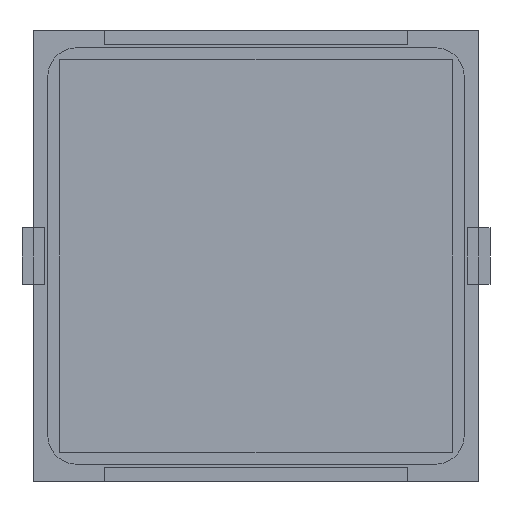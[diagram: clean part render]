
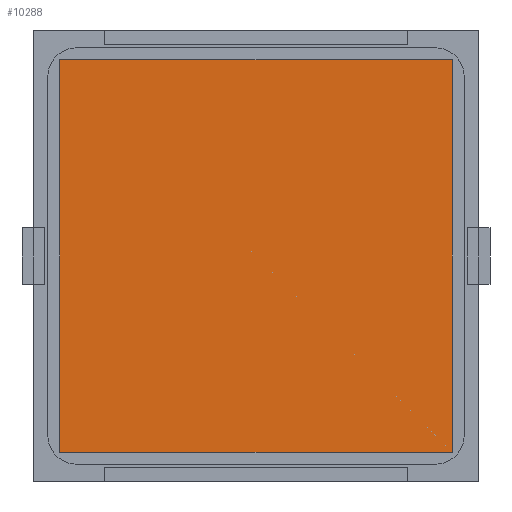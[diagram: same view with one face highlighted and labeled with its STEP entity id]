
A CAD part, front view. The second image highlights one B-rep face of the part: STEP entity #10288.
In plain terms, the highlighted planar face has unit normal (0, -1, 0).
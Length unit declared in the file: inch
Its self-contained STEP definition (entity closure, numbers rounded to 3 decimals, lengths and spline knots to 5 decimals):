
#404 = CARTESIAN_POINT ( 'NONE',  ( -0.68898, -0.005, -0.68898 ) ) ;
#887 = VERTEX_POINT ( 'NONE', #13855 ) ;
#1450 = CARTESIAN_POINT ( 'NONE',  ( 0.68898, -0.005, 0.68898 ) ) ;
#1799 = CARTESIAN_POINT ( 'NONE',  ( -0.68898, -0.005, 0.68898 ) ) ;
#2661 = ORIENTED_EDGE ( 'NONE', *, *, #12009, .F. ) ;
#3755 = LINE ( 'NONE', #5329, #15935 ) ;
#4129 = EDGE_CURVE ( 'NONE', #887, #9098, #7491, .T. ) ;
#4451 = DIRECTION ( 'NONE',  ( 1., 0., 0. ) ) ;
#5329 = CARTESIAN_POINT ( 'NONE',  ( -0.68898, -0.005, -0.68898 ) ) ;
#5754 = EDGE_CURVE ( 'NONE', #15567, #13935, #13381, .T. ) ;
#5760 = PLANE ( 'NONE',  #10592 ) ;
#7180 = DIRECTION ( 'NONE',  ( 0., 0., -1. ) ) ;
#7404 = FACE_OUTER_BOUND ( 'NONE', #16081, .T. ) ;
#7491 = LINE ( 'NONE', #8945, #16450 ) ;
#8945 = CARTESIAN_POINT ( 'NONE',  ( -0.68898, -0.005, -0.68898 ) ) ;
#9041 = DIRECTION ( 'NONE',  ( 0., 0., 1. ) ) ;
#9098 = VERTEX_POINT ( 'NONE', #404 ) ;
#9146 = DIRECTION ( 'NONE',  ( 0., 1., 0. ) ) ;
#9477 = VECTOR ( 'NONE', #4451, 39.37008 ) ;
#9590 = ORIENTED_EDGE ( 'NONE', *, *, #5754, .F. ) ;
#10198 = CARTESIAN_POINT ( 'NONE',  ( -0.68898, -0.005, 0.68898 ) ) ;
#10288 = ADVANCED_FACE ( 'NONE', ( #7404 ), #5760, .F. ) ;
#10592 = AXIS2_PLACEMENT_3D ( 'NONE', #10198, #9146, #9041 ) ;
#11047 = DIRECTION ( 'NONE',  ( 0., 0., 1. ) ) ;
#11076 = LINE ( 'NONE', #17017, #12561 ) ;
#11773 = DIRECTION ( 'NONE',  ( -1., 0., 0. ) ) ;
#12009 = EDGE_CURVE ( 'NONE', #13935, #887, #11076, .T. ) ;
#12561 = VECTOR ( 'NONE', #7180, 39.37008 ) ;
#13082 = ORIENTED_EDGE ( 'NONE', *, *, #15560, .F. ) ;
#13381 = LINE ( 'NONE', #1799, #9477 ) ;
#13855 = CARTESIAN_POINT ( 'NONE',  ( 0.68898, -0.005, -0.68898 ) ) ;
#13935 = VERTEX_POINT ( 'NONE', #1450 ) ;
#14715 = CARTESIAN_POINT ( 'NONE',  ( -0.68898, -0.005, 0.68898 ) ) ;
#15560 = EDGE_CURVE ( 'NONE', #9098, #15567, #3755, .T. ) ;
#15567 = VERTEX_POINT ( 'NONE', #14715 ) ;
#15935 = VECTOR ( 'NONE', #11047, 39.37008 ) ;
#16081 = EDGE_LOOP ( 'NONE', ( #13082, #18538, #2661, #9590 ) ) ;
#16450 = VECTOR ( 'NONE', #11773, 39.37008 ) ;
#17017 = CARTESIAN_POINT ( 'NONE',  ( 0.68898, -0.005, -0.68898 ) ) ;
#18538 = ORIENTED_EDGE ( 'NONE', *, *, #4129, .F. ) ;
